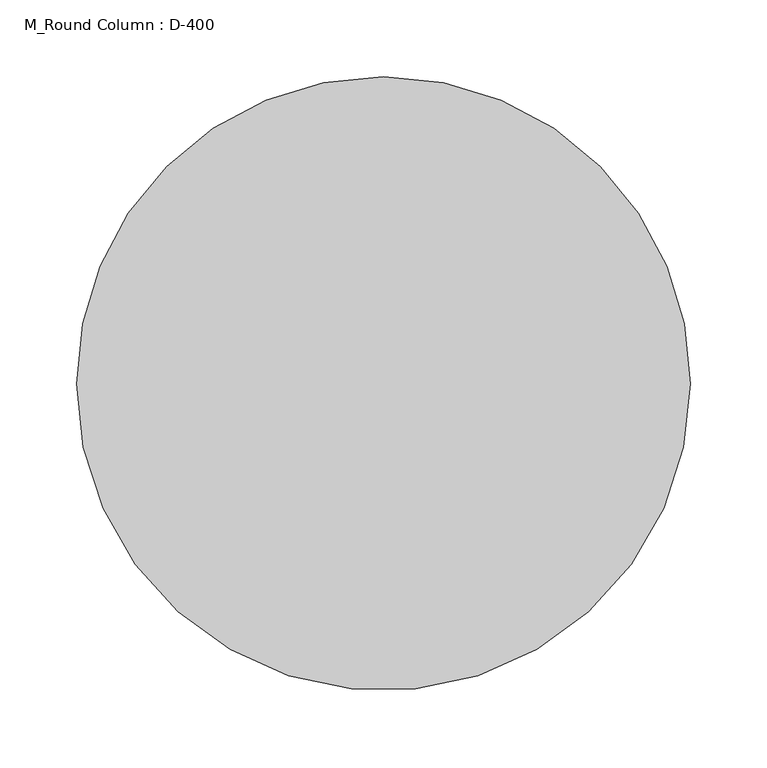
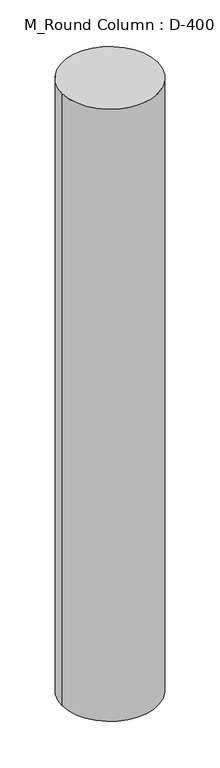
"""IFC4 building model written with IfcOpenShell, lengths in millimetres: column geometry, M_Round Column : D-400."""

from ifc_helpers import new_model, si_unit, point, frame, origin, origin_2d, place, context, project, spatial, circle_curve, trimmed, segment, composite_curve, outline, extrude, source, transform, mapped, element, save


def m_round_column_d_400_f1d5f1c1(model_context):
    return source(origin(), model_context, "Body", "SweptSolid", [
        extrude(outline(composite_curve([segment(trimmed(circle_curve(origin_2d(), 200.0), [point((200.0, 0.0))], [point((-200.0, 0.0))], False, "CARTESIAN"), True, "CONTINUOUS"), segment(trimmed(circle_curve(origin_2d(), 200.0), [point((-200.0, 0.0))], [point((0.0, 200.0))], False, "CARTESIAN"), True, "CONTINUOUS"), segment(trimmed(circle_curve(origin_2d(), 200.0), [point((0.0, 200.0))], [point((200.0, 0.0))], False, "CARTESIAN"), True, "CONTINUOUS")], self_intersect=False)), frame((0.0, 0.0, 5200.0), z_axis=(0.0, 0.0, 1.0), x_axis=(1.0, 0.0, 0.0)), (0.0, 0.0, 1.0), 2720.0),
    ])


if __name__ == "__main__":
    model = new_model("IFC4")
    model_context = context("Model", 3, world=origin())
    ifc_project = project(units=[si_unit("LENGTHUNIT", "METRE", prefix="MILLI")], contexts=[model_context])
    site = spatial("IfcSite", under=ifc_project)
    building = spatial("IfcBuilding", under=site)
    placement = place(None, origin())
    m_round_column_d_400_shape = m_round_column_d_400_f1d5f1c1(model_context)
    element("IfcColumn", 1, ObjectType="M_Round Column : D-400", at=placement, inside=building, context=model_context, shape_type="MappedRepresentation", body=[
        mapped(m_round_column_d_400_shape, transform((0.0, 0.0, 0.0), x_axis=(1.0, 0.0, 0.0), y_axis=(0.0, 1.0, 0.0), z_axis=(0.0, 0.0, 1.0))),
    ])
    save(model, "model.ifc")
